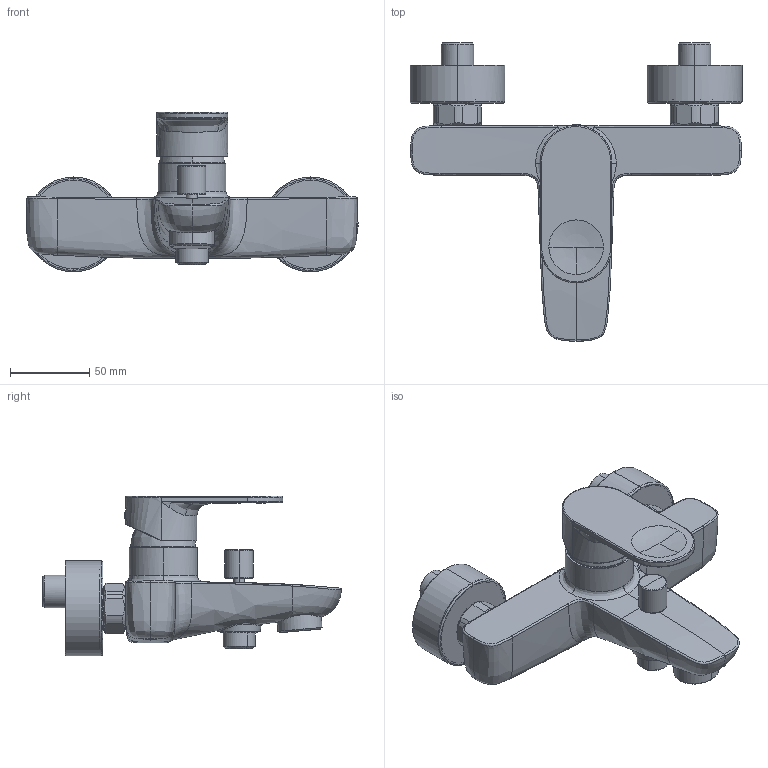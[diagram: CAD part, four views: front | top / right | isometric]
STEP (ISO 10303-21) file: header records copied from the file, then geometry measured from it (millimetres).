
FILE_DESCRIPTION(/* description */ (''),/* implementation_level */ '2;1');
FILE_NAME(/* name */ 'a_neu',/* time_stamp */ '2019-03-01T10:13:01+01:00',/* author */ (''),/* organization */ (''),/* preprocessor_version */ 'ST-DEVELOPER v15',/* originating_system */ '',/* authorisation */ '');
FILE_SCHEMA (('AUTOMOTIVE_DESIGN'));
Length unit declared in the file: millimetre
Products named in the file (1): Document
Bounding box: 209.96 x 188.83 x 101.02 mm (x, y, z)
Volume: 7181.7 mm3; surface area: 95893.2 mm2
Topology: 2 solids, 14 shells, 282 faces, 713 edges, 438 vertices
Faces by surface type: bspline 282
Entity records: 52910 total; most frequent: CARTESIAN_POINT 44499, B_SPLINE_CURVE_WITH_KNOTS 1545, ORIENTED_EDGE 1311, PCURVE 1311, DEFINITIONAL_REPRESENTATION 1311, SURFACE_CURVE 708, EDGE_CURVE 708, VERTEX_POINT 438
